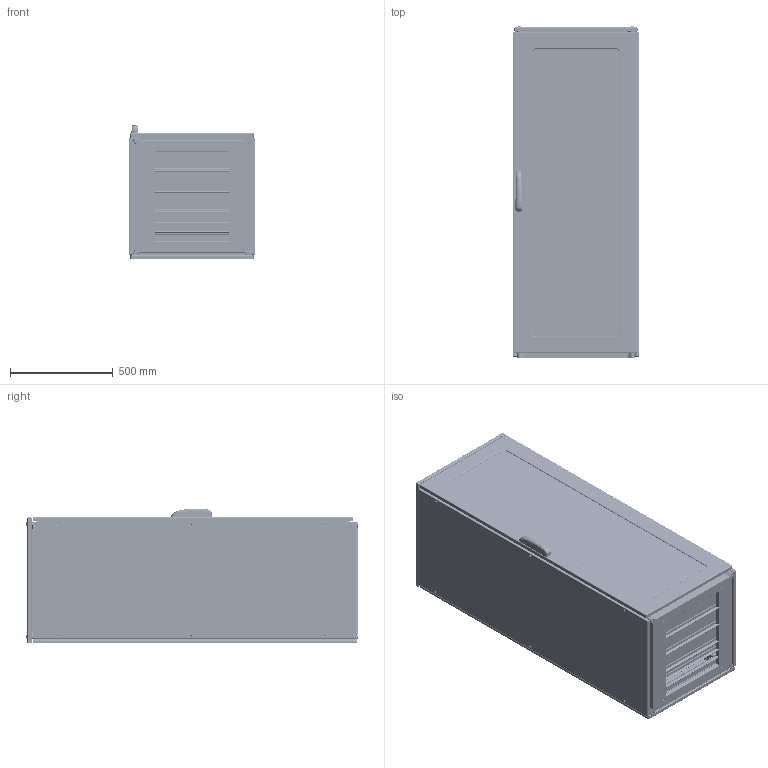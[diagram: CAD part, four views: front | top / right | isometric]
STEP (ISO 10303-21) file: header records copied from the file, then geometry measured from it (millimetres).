
FILE_DESCRIPTION (( 'STEP AP203' ), '1' );
FILE_NAME ('ENUX061606PV.STEP', '2025-05-29T08:12:00', ( '' ), ( '' ), 'SwSTEP 2.0', 'SolidWorks 2022', '' );
FILE_SCHEMA (( 'CONFIG_CONTROL_DESIGN' ));
Length unit declared in the file: millimetre
Products named in the file (13): AR_ENUX_Tegolino_0600x0050; AR_ENUX_Fianco_0600x1600_SX; AR_ENUX_Porta_singola_plexi_0600x1600_ANT; AR_ENUX_Vite_tetto; ENUX061606PV; AR_ENUX_Plexiglass_porte_0600X1600; AR_ENUX_Retro_singolo_0600x1600; AR_ENUX_Tegolino_0600x0100; AR_ENUX_nuova_maniglia_mesan; AR_ENUX_Struttura_0600x1600x0600; AR_ENUX_Tetto_0600x0600; AR_ENUX_Fianco_0600x1600_DX; AR_ENUX_montaggio_porta_singlola_plexi_0600x1600_ANT_DX
Assembly tree (18 placements, depth 3):
  ENUX061606PV
    AR_ENUX_Struttura_0600x1600x0600
    AR_ENUX_Retro_singolo_0600x1600
    AR_ENUX_Fianco_0600x1600_SX
    AR_ENUX_Fianco_0600x1600_DX
    AR_ENUX_Tetto_0600x0600
    AR_ENUX_Vite_tetto  x4
    AR_ENUX_montaggio_porta_singlola_plexi_0600x1600_ANT_DX
      AR_ENUX_Porta_singola_plexi_0600x1600_ANT
      AR_ENUX_Plexiglass_porte_0600X1600
      AR_ENUX_nuova_maniglia_mesan
    AR_ENUX_Tegolino_0600x0100  x3
    AR_ENUX_Tegolino_0600x0050  x2
Bounding box: 612 x 1615.1 x 657 mm (x, y, z)
Volume: 11333707.1 mm3; surface area: 14835691.2 mm2
Topology: 17 solids, 17 shells, 7650 faces, 21462 edges, 13746 vertices
Faces by surface type: plane 4080, cylinder 2726, bspline 365, torus 255, cone 156, sphere 68
Entity records: 282911 total; most frequent: CARTESIAN_POINT 82892, ORIENTED_EDGE 41494, DIRECTION 39470, EDGE_CURVE 20747, VECTOR 14064, LINE 14064, VERTEX_POINT 13428, AXIS2_PLACEMENT_3D 12703
